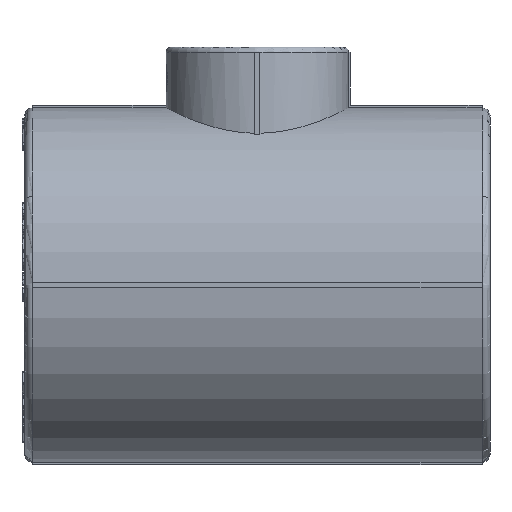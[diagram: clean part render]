
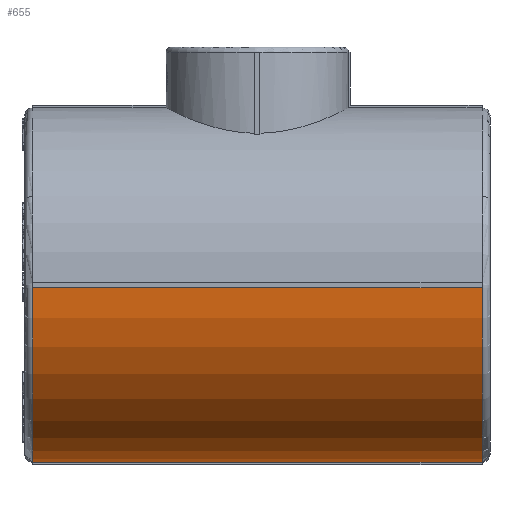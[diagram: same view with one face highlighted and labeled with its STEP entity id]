
A CAD part, left-side view. The second image highlights one B-rep face of the part: STEP entity #655.
In plain terms, the highlighted cylindrical face has radius 33.5 mm (diameter 67 mm), a partial arc.
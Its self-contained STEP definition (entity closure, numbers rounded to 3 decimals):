
#655=ADVANCED_FACE('',(#5091),#5093,.T.);
#5091=FACE_BOUND('',#5092,.T.);
#5092=EDGE_LOOP('',(#12960,#12961,#12962,#12963));
#5093=CYLINDRICAL_SURFACE('',#5094,33.5);
#5094=AXIS2_PLACEMENT_3D('',#5095,#5096,#5097);
#5095=CARTESIAN_POINT('',(0.,-44.,0.));
#5096=DIRECTION('',(0.,1.,0.));
#5097=DIRECTION('',(-1.,0.,0.));
#12960=ORIENTED_EDGE('',*,*,#18383,.F.);
#12961=ORIENTED_EDGE('',*,*,#18384,.T.);
#12962=ORIENTED_EDGE('',*,*,#18385,.F.);
#12963=ORIENTED_EDGE('',*,*,#18346,.F.);
#18346=EDGE_CURVE('',#22586,#22588,#22589,.T.);
#18383=EDGE_CURVE('',#22655,#22586,#22656,.T.);
#18384=EDGE_CURVE('',#22655,#22657,#22658,.T.);
#18385=EDGE_CURVE('',#22588,#22657,#22659,.F.);
#22586=VERTEX_POINT('',#31151);
#22588=VERTEX_POINT('',#31156);
#22589=CIRCLE('',#31157,33.5);
#22655=VERTEX_POINT('',#31543);
#22656=LINE('',#31544,#31545);
#22657=VERTEX_POINT('',#31547);
#22658=CIRCLE('',#31548,33.5);
#22659=LINE('',#31552,#31553);
#31151=CARTESIAN_POINT('',(-0.5,42.5,-33.496));
#31156=CARTESIAN_POINT('',(-33.496,42.5,-0.5));
#31157=AXIS2_PLACEMENT_3D('',#31158,#31159,#31160);
#31158=CARTESIAN_POINT('',(0.,42.5,0.));
#31159=DIRECTION('',(0.,1.,0.));
#31160=DIRECTION('',(-0.015,0.,-1.));
#31543=CARTESIAN_POINT('',(-0.5,-42.5,-33.496));
#31544=CARTESIAN_POINT('',(-0.5,-42.5,-33.496));
#31545=VECTOR('',#31546,1.);
#31546=DIRECTION('',(0.,1.,0.));
#31547=CARTESIAN_POINT('',(-33.496,-42.5,-0.5));
#31548=AXIS2_PLACEMENT_3D('',#31549,#31550,#31551);
#31549=CARTESIAN_POINT('',(0.,-42.5,0.));
#31550=DIRECTION('',(0.,1.,0.));
#31551=DIRECTION('',(-0.015,0.,-1.));
#31552=CARTESIAN_POINT('',(-33.496,-42.5,-0.5));
#31553=VECTOR('',#31554,1.);
#31554=DIRECTION('',(0.,1.,0.));
